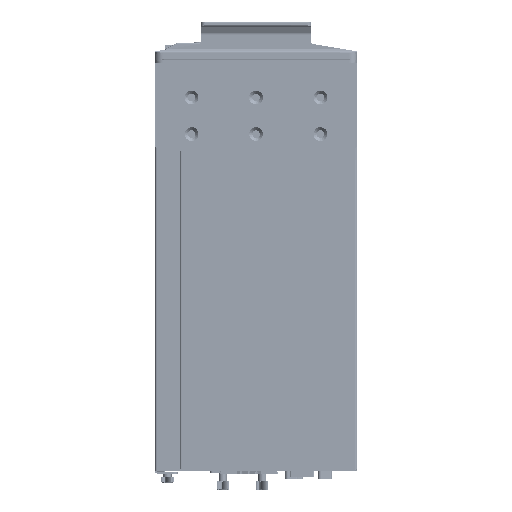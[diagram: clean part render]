
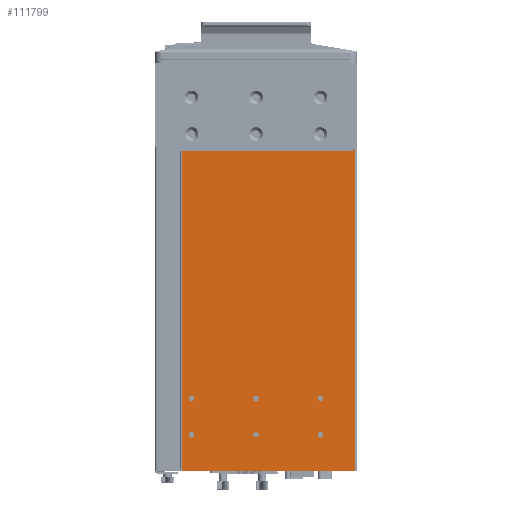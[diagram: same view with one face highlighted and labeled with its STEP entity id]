
A CAD part, left-side view. The second image highlights one B-rep face of the part: STEP entity #111799.
In plain terms, the highlighted planar face has unit normal (-1, 0, 0).
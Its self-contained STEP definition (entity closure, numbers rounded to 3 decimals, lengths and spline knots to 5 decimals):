
#2839=DIRECTION('',(0.,0.,-1.));
#2840=VECTOR('',#2839,0.20882);
#2841=CARTESIAN_POINT('',(-0.22,0.1152,-0.07428));
#2842=LINE('',#2841,#2840);
#2884=DIRECTION('',(0.,0.,1.));
#2885=VECTOR('',#2884,0.21057);
#2886=CARTESIAN_POINT('',(-0.22,0.0012,-0.2831));
#2887=LINE('',#2886,#2885);
#2888=CARTESIAN_POINT('',(-0.22,0.1087,-0.2605));
#2889=DIRECTION('',(-1.,0.,0.));
#2890=DIRECTION('',(0.,-1.,0.));
#2891=AXIS2_PLACEMENT_3D('',#2888,#2889,#2890);
#2893=CARTESIAN_POINT('',(-0.22,0.1087,-0.2605));
#2894=DIRECTION('',(-1.,0.,0.));
#2895=DIRECTION('',(0.,1.,0.));
#2896=AXIS2_PLACEMENT_3D('',#2893,#2894,#2895);
#2898=CARTESIAN_POINT('',(-0.22,0.0664,-0.2605));
#2899=DIRECTION('',(-1.,0.,0.));
#2900=DIRECTION('',(0.,-1.,0.));
#2901=AXIS2_PLACEMENT_3D('',#2898,#2899,#2900);
#2903=CARTESIAN_POINT('',(-0.22,0.0664,-0.2605));
#2904=DIRECTION('',(-1.,0.,0.));
#2905=DIRECTION('',(0.,1.,0.));
#2906=AXIS2_PLACEMENT_3D('',#2903,#2904,#2905);
#2908=CARTESIAN_POINT('',(-0.22,0.0241,-0.2605));
#2909=DIRECTION('',(-1.,0.,0.));
#2910=DIRECTION('',(0.,-1.,0.));
#2911=AXIS2_PLACEMENT_3D('',#2908,#2909,#2910);
#2913=CARTESIAN_POINT('',(-0.22,0.0241,-0.2605));
#2914=DIRECTION('',(-1.,0.,0.));
#2915=DIRECTION('',(0.,1.,0.));
#2916=AXIS2_PLACEMENT_3D('',#2913,#2914,#2915);
#2918=CARTESIAN_POINT('',(-0.22,0.1087,-0.2365));
#2919=DIRECTION('',(-1.,0.,0.));
#2920=DIRECTION('',(0.,-1.,0.));
#2921=AXIS2_PLACEMENT_3D('',#2918,#2919,#2920);
#2923=CARTESIAN_POINT('',(-0.22,0.1087,-0.2365));
#2924=DIRECTION('',(-1.,0.,0.));
#2925=DIRECTION('',(0.,1.,0.));
#2926=AXIS2_PLACEMENT_3D('',#2923,#2924,#2925);
#2928=CARTESIAN_POINT('',(-0.22,0.0664,-0.2365));
#2929=DIRECTION('',(-1.,0.,0.));
#2930=DIRECTION('',(0.,-1.,0.));
#2931=AXIS2_PLACEMENT_3D('',#2928,#2929,#2930);
#2933=CARTESIAN_POINT('',(-0.22,0.0664,-0.2365));
#2934=DIRECTION('',(-1.,0.,0.));
#2935=DIRECTION('',(0.,1.,0.));
#2936=AXIS2_PLACEMENT_3D('',#2933,#2934,#2935);
#2938=CARTESIAN_POINT('',(-0.22,0.0241,-0.2365));
#2939=DIRECTION('',(-1.,0.,0.));
#2940=DIRECTION('',(0.,-1.,0.));
#2941=AXIS2_PLACEMENT_3D('',#2938,#2939,#2940);
#2943=CARTESIAN_POINT('',(-0.22,0.0241,-0.2365));
#2944=DIRECTION('',(-1.,0.,0.));
#2945=DIRECTION('',(0.,1.,0.));
#2946=AXIS2_PLACEMENT_3D('',#2943,#2944,#2945);
#3068=DIRECTION('',(0.,-1.,0.));
#3069=VECTOR('',#3068,0.1102);
#3070=CARTESIAN_POINT('',(-0.22,0.1152,-0.07428));
#3071=LINE('',#3070,#3069);
#3072=CARTESIAN_POINT('',(-0.22,0.005,-0.06928));
#3073=DIRECTION('',(1.,0.,0.));
#3074=DIRECTION('',(0.,-0.76,-0.65));
#3075=AXIS2_PLACEMENT_3D('',#3072,#3073,#3074);
#3077=CARTESIAN_POINT('',(-0.22,0.1133,-0.2845));
#3078=CARTESIAN_POINT('',(-0.22,0.11359,
-0.2845));
#3079=CARTESIAN_POINT('',(-0.22,0.11415,
-0.28437));
#3080=CARTESIAN_POINT('',(-0.22,0.11483,
-0.28386));
#3081=CARTESIAN_POINT('',(-0.22,0.11511,
-0.28338));
#3082=CARTESIAN_POINT('',(-0.22,0.1152,
-0.2831));
#4492=DIRECTION('',(0.,0.,1.));
#4493=VECTOR('',#4492,0.0014);
#4494=CARTESIAN_POINT('',(-0.22,0.0012,-0.2845));
#4495=LINE('',#4494,#4493);
#4507=DIRECTION('',(0.,-1.,0.));
#4508=VECTOR('',#4507,0.1121);
#4509=CARTESIAN_POINT('',(-0.22,0.1133,-0.2845));
#4510=LINE('',#4509,#4508);
#51199=CARTESIAN_POINT('',(-0.22,0.0012,-0.2831));
#87821=VERTEX_POINT('',#51199);
#87824=CARTESIAN_POINT('',(-0.22,0.0012,-0.2845));
#87825=VERTEX_POINT('',#87824);
#87826=CARTESIAN_POINT('',(-0.22,0.1133,-0.2845));
#87827=VERTEX_POINT('',#87826);
#87828=VERTEX_POINT('',#3082);
#89409=CARTESIAN_POINT('',(-0.22,0.02235,-0.2365));
#89410=CARTESIAN_POINT('',(-0.22,0.02585,-0.2365));
#89411=VERTEX_POINT('',#89409);
#89412=VERTEX_POINT('',#89410);
#89421=CARTESIAN_POINT('',(-0.22,0.06465,-0.2365));
#89422=CARTESIAN_POINT('',(-0.22,0.06815,-0.2365));
#89423=VERTEX_POINT('',#89421);
#89424=VERTEX_POINT('',#89422);
#89433=CARTESIAN_POINT('',(-0.22,0.10695,-0.2365));
#89434=CARTESIAN_POINT('',(-0.22,0.11045,-0.2365));
#89435=VERTEX_POINT('',#89433);
#89436=VERTEX_POINT('',#89434);
#89445=CARTESIAN_POINT('',(-0.22,0.02235,-0.2605));
#89446=CARTESIAN_POINT('',(-0.22,0.02585,-0.2605));
#89447=VERTEX_POINT('',#89445);
#89448=VERTEX_POINT('',#89446);
#89457=CARTESIAN_POINT('',(-0.22,0.06465,-0.2605));
#89458=CARTESIAN_POINT('',(-0.22,0.06815,-0.2605));
#89459=VERTEX_POINT('',#89457);
#89460=VERTEX_POINT('',#89458);
#89469=CARTESIAN_POINT('',(-0.22,0.10695,-0.2605));
#89470=CARTESIAN_POINT('',(-0.22,0.11045,-0.2605));
#89471=VERTEX_POINT('',#89469);
#89472=VERTEX_POINT('',#89470);
#107310=CARTESIAN_POINT('',(-0.22,0.0012,-0.07253));
#107312=VERTEX_POINT('',#107310);
#107338=CARTESIAN_POINT('',(-0.22,0.1152,-0.07428));
#107339=CARTESIAN_POINT('',(-0.22,0.005,-0.07428));
#107340=VERTEX_POINT('',#107338);
#107341=VERTEX_POINT('',#107339);
#111744=CARTESIAN_POINT('',(-0.22,0.,-0.21928));
#111745=DIRECTION('',(-1.,0.,0.));
#111746=DIRECTION('',(0.,0.,1.));
#111747=AXIS2_PLACEMENT_3D('',#111744,#111745,#111746);
#111748=PLANE('',#111747);
#111750=ORIENTED_EDGE('',*,*,#111749,.T.);
#111752=ORIENTED_EDGE('',*,*,#111751,.F.);
#111753=ORIENTED_EDGE('',*,*,#111582,.F.);
#111755=ORIENTED_EDGE('',*,*,#111754,.F.);
#111757=ORIENTED_EDGE('',*,*,#111756,.F.);
#111759=ORIENTED_EDGE('',*,*,#111758,.T.);
#111760=ORIENTED_EDGE('',*,*,#111462,.F.);
#111761=EDGE_LOOP('',(#111750,#111752,#111753,#111755,#111757,#111759,#111760));
#111762=FACE_OUTER_BOUND('',#111761,.F.);
#111764=ORIENTED_EDGE('',*,*,#111763,.T.);
#111766=ORIENTED_EDGE('',*,*,#111765,.T.);
#111767=EDGE_LOOP('',(#111764,#111766));
#111768=FACE_BOUND('',#111767,.F.);
#111770=ORIENTED_EDGE('',*,*,#111769,.T.);
#111772=ORIENTED_EDGE('',*,*,#111771,.T.);
#111773=EDGE_LOOP('',(#111770,#111772));
#111774=FACE_BOUND('',#111773,.F.);
#111776=ORIENTED_EDGE('',*,*,#111775,.T.);
#111778=ORIENTED_EDGE('',*,*,#111777,.T.);
#111779=EDGE_LOOP('',(#111776,#111778));
#111780=FACE_BOUND('',#111779,.F.);
#111782=ORIENTED_EDGE('',*,*,#111781,.T.);
#111784=ORIENTED_EDGE('',*,*,#111783,.T.);
#111785=EDGE_LOOP('',(#111782,#111784));
#111786=FACE_BOUND('',#111785,.F.);
#111788=ORIENTED_EDGE('',*,*,#111787,.T.);
#111790=ORIENTED_EDGE('',*,*,#111789,.T.);
#111791=EDGE_LOOP('',(#111788,#111790));
#111792=FACE_BOUND('',#111791,.F.);
#111794=ORIENTED_EDGE('',*,*,#111793,.T.);
#111796=ORIENTED_EDGE('',*,*,#111795,.T.);
#111797=EDGE_LOOP('',(#111794,#111796));
#111798=FACE_BOUND('',#111797,.F.);
#2892=CIRCLE('',#2891,0.00175);
#2897=CIRCLE('',#2896,0.00175);
#2902=CIRCLE('',#2901,0.00175);
#2907=CIRCLE('',#2906,0.00175);
#2912=CIRCLE('',#2911,0.00175);
#2917=CIRCLE('',#2916,0.00175);
#2922=CIRCLE('',#2921,0.00175);
#2927=CIRCLE('',#2926,0.00175);
#2932=CIRCLE('',#2931,0.00175);
#2937=CIRCLE('',#2936,0.00175);
#2942=CIRCLE('',#2941,0.00175);
#2947=CIRCLE('',#2946,0.00175);
#3076=CIRCLE('',#3075,0.005);
#3083=B_SPLINE_CURVE_WITH_KNOTS('',3,(#3077,#3078,#3079,#3080,#3081,#3082),
.UNSPECIFIED.,.F.,.F.,(4,1,1,4),(0.,0.33333,0.66667,1.),
.UNSPECIFIED.);
#111462=EDGE_CURVE('',#107340,#87828,#2842,.T.);
#111582=EDGE_CURVE('',#87821,#107312,#2887,.T.);
#111749=EDGE_CURVE('',#107340,#107341,#3071,.T.);
#111751=EDGE_CURVE('',#107312,#107341,#3076,.T.);
#111754=EDGE_CURVE('',#87825,#87821,#4495,.T.);
#111756=EDGE_CURVE('',#87827,#87825,#4510,.T.);
#111758=EDGE_CURVE('',#87827,#87828,#3083,.T.);
#111763=EDGE_CURVE('',#89471,#89472,#2892,.T.);
#111765=EDGE_CURVE('',#89472,#89471,#2897,.T.);
#111769=EDGE_CURVE('',#89459,#89460,#2902,.T.);
#111771=EDGE_CURVE('',#89460,#89459,#2907,.T.);
#111775=EDGE_CURVE('',#89447,#89448,#2912,.T.);
#111777=EDGE_CURVE('',#89448,#89447,#2917,.T.);
#111781=EDGE_CURVE('',#89435,#89436,#2922,.T.);
#111783=EDGE_CURVE('',#89436,#89435,#2927,.T.);
#111787=EDGE_CURVE('',#89423,#89424,#2932,.T.);
#111789=EDGE_CURVE('',#89424,#89423,#2937,.T.);
#111793=EDGE_CURVE('',#89411,#89412,#2942,.T.);
#111795=EDGE_CURVE('',#89412,#89411,#2947,.T.);
#111799=ADVANCED_FACE('',(#111762,#111768,#111774,#111780,#111786,#111792,
#111798),#111748,.T.);
